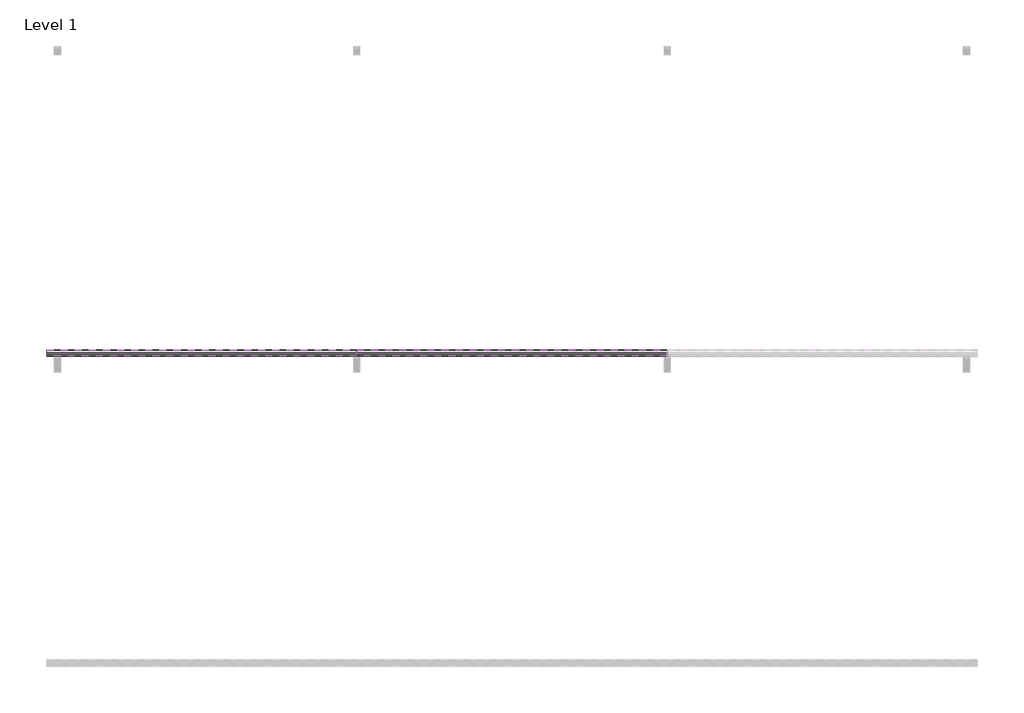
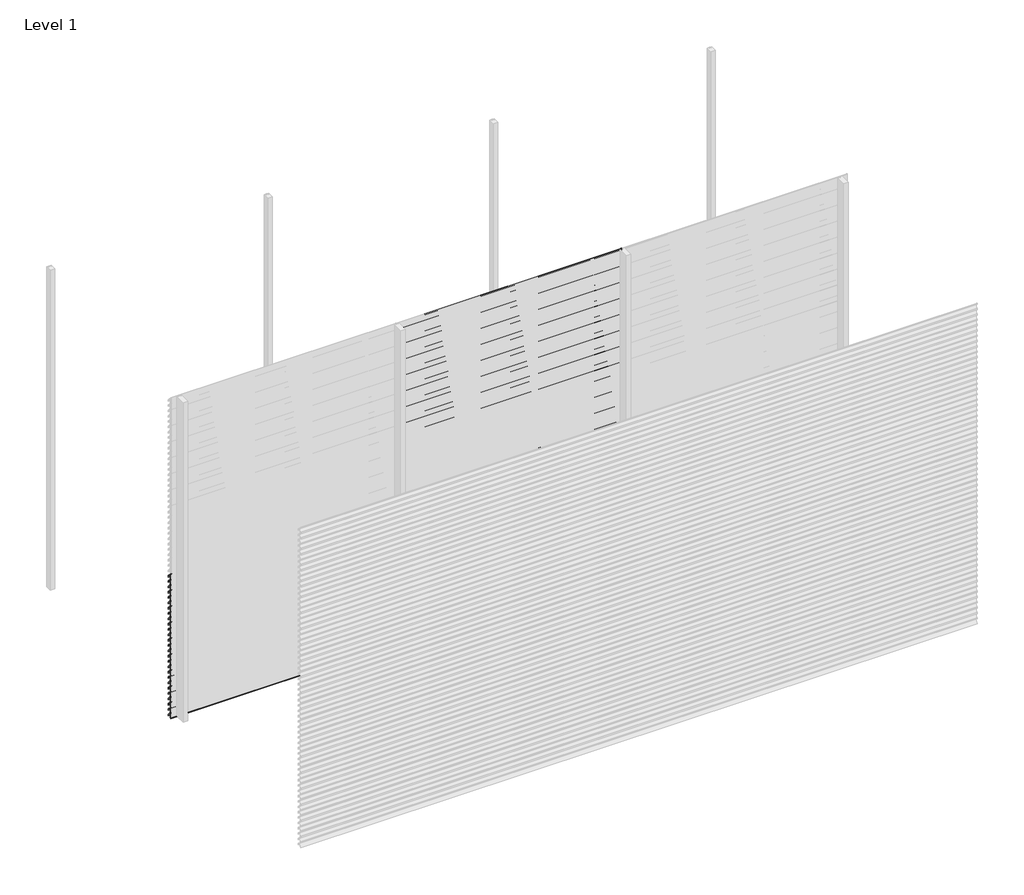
# One storey, part 15 of 38: 66 proxies.
"""IFC4 building model written with IfcOpenShell, lengths in millimetres."""

from ifc_helpers import new_model, si_unit, frame, origin, place, context, project, spatial, polyline, outline, extrude, element, save

model = new_model("IFC4")

# Units and contexts
model_context = context("Model", 3, world=origin())
ifc_project = project(units=[si_unit("LENGTHUNIT", "METRE", prefix="MILLI")], contexts=[model_context])

# Site, building, storey
site = spatial("IfcSite", under=ifc_project)
building = spatial("IfcBuilding", under=site)
storey = spatial("IfcBuildingStorey", under=building, Name="Level 1", Elevation=0.0)

# Proxies
placement = place(None, origin())
element("IfcBuildingElementProxy", 1, Name="Wall Sweeps", at=placement, inside=storey, context=model_context, shape_type="SweptSolid", body=[
    extrude(outline(polyline([(-35996.75, 1350.0), (-35996.75, 1339.19656), (-35974.6057113, 1326.4115489), (-35957.0, 1309.0472005), (-35957.0, 1294.0472005), (-35958.3, 1295.0268207), (-35958.3, 1308.5034593), (-35969.4914725, 1319.541504), (-35994.2797376, 1290.0), (-35995.9767671, 1290.0), (-35970.4200307, 1320.4573323), (-35975.3999793, 1325.3690091), (-35998.0, 1338.4171371), (-35998.0, 1350.0), (-35996.75, 1350.0)])), frame((0.0, 0.0, 0.0), z_axis=(1.0, 0.0, 0.0), x_axis=(0.0, 1.0, 0.0)), (0.0, 0.0, 1.0), 2000.0),
])
element("IfcBuildingElementProxy", 2, Name="Wall Sweeps", at=placement, inside=storey, context=model_context, shape_type="SweptSolid", body=[
    extrude(outline(polyline([(-35996.75, 1300.0), (-35996.75, 1289.19656), (-35974.6057113, 1276.4115489), (-35957.0, 1259.0472005), (-35957.0, 1244.0472005), (-35958.3, 1245.0268207), (-35958.3, 1258.5034593), (-35969.4914725, 1269.541504), (-35994.2797376, 1240.0), (-35995.9767671, 1240.0), (-35970.4200307, 1270.4573323), (-35975.3999793, 1275.3690091), (-35998.0, 1288.4171371), (-35998.0, 1300.0), (-35996.75, 1300.0)])), frame((0.0, 0.0, 0.0), z_axis=(1.0, 0.0, 0.0), x_axis=(0.0, 1.0, 0.0)), (0.0, 0.0, 1.0), 2000.0),
])
element("IfcBuildingElementProxy", 3, Name="Wall Sweeps", at=placement, inside=storey, context=model_context, shape_type="SweptSolid", body=[
    extrude(outline(polyline([(-35996.75, 1250.0), (-35996.75, 1239.19656), (-35974.6057113, 1226.4115489), (-35957.0, 1209.0472005), (-35957.0, 1194.0472005), (-35958.3, 1195.0268207), (-35958.3, 1208.5034593), (-35969.4914725, 1219.541504), (-35994.2797376, 1190.0), (-35995.9767671, 1190.0), (-35970.4200307, 1220.4573323), (-35975.3999793, 1225.3690091), (-35998.0, 1238.4171371), (-35998.0, 1250.0), (-35996.75, 1250.0)])), frame((0.0, 0.0, 0.0), z_axis=(1.0, 0.0, 0.0), x_axis=(0.0, 1.0, 0.0)), (0.0, 0.0, 1.0), 2000.0),
])
element("IfcBuildingElementProxy", 4, Name="Wall Sweeps", at=placement, inside=storey, context=model_context, shape_type="SweptSolid", body=[
    extrude(outline(polyline([(-35996.75, 1200.0), (-35996.75, 1189.19656), (-35974.6057113, 1176.4115489), (-35957.0, 1159.0472005), (-35957.0, 1144.0472005), (-35958.3, 1145.0268207), (-35958.3, 1158.5034593), (-35969.4914725, 1169.541504), (-35994.2797376, 1140.0), (-35995.9767671, 1140.0), (-35970.4200307, 1170.4573323), (-35975.3999793, 1175.3690091), (-35998.0, 1188.4171371), (-35998.0, 1200.0), (-35996.75, 1200.0)])), frame((0.0, 0.0, 0.0), z_axis=(1.0, 0.0, 0.0), x_axis=(0.0, 1.0, 0.0)), (0.0, 0.0, 1.0), 2000.0),
])
element("IfcBuildingElementProxy", 5, Name="Wall Sweeps", at=placement, inside=storey, context=model_context, shape_type="SweptSolid", body=[
    extrude(outline(polyline([(-35996.75, 1150.0), (-35996.75, 1139.19656), (-35974.6057113, 1126.4115489), (-35957.0, 1109.0472005), (-35957.0, 1094.0472005), (-35958.3, 1095.0268207), (-35958.3, 1108.5034593), (-35969.4914725, 1119.541504), (-35994.2797376, 1090.0), (-35995.9767671, 1090.0), (-35970.4200307, 1120.4573323), (-35975.3999793, 1125.3690091), (-35998.0, 1138.4171371), (-35998.0, 1150.0), (-35996.75, 1150.0)])), frame((0.0, 0.0, 0.0), z_axis=(1.0, 0.0, 0.0), x_axis=(0.0, 1.0, 0.0)), (0.0, 0.0, 1.0), 2000.0),
])
element("IfcBuildingElementProxy", 6, Name="Wall Sweeps", at=placement, inside=storey, context=model_context, shape_type="SweptSolid", body=[
    extrude(outline(polyline([(-35996.75, 1100.0), (-35996.75, 1089.19656), (-35974.6057113, 1076.4115489), (-35957.0, 1059.0472005), (-35957.0, 1044.0472005), (-35958.3, 1045.0268207), (-35958.3, 1058.5034593), (-35969.4914725, 1069.541504), (-35994.2797376, 1040.0), (-35995.9767671, 1040.0), (-35970.4200307, 1070.4573323), (-35975.3999793, 1075.3690091), (-35998.0, 1088.4171371), (-35998.0, 1100.0), (-35996.75, 1100.0)])), frame((0.0, 0.0, 0.0), z_axis=(1.0, 0.0, 0.0), x_axis=(0.0, 1.0, 0.0)), (0.0, 0.0, 1.0), 2000.0),
])
element("IfcBuildingElementProxy", 7, Name="Wall Sweeps", at=placement, inside=storey, context=model_context, shape_type="SweptSolid", body=[
    extrude(outline(polyline([(-35996.75, 1050.0), (-35996.75, 1039.19656), (-35974.6057113, 1026.4115489), (-35957.0, 1009.0472005), (-35957.0, 994.0472005), (-35958.3, 995.0268207), (-35958.3, 1008.5034593), (-35969.4914725, 1019.541504), (-35994.2797376, 990.0), (-35995.9767671, 990.0), (-35970.4200307, 1020.4573323), (-35975.3999793, 1025.3690091), (-35998.0, 1038.4171371), (-35998.0, 1050.0), (-35996.75, 1050.0)])), frame((0.0, 0.0, 0.0), z_axis=(1.0, 0.0, 0.0), x_axis=(0.0, 1.0, 0.0)), (0.0, 0.0, 1.0), 2000.0),
])
element("IfcBuildingElementProxy", 8, Name="Wall Sweeps", at=placement, inside=storey, context=model_context, shape_type="SweptSolid", body=[
    extrude(outline(polyline([(-35996.75, 1000.0), (-35996.75, 989.19656), (-35974.6057113, 976.4115489), (-35957.0, 959.0472005), (-35957.0, 944.0472005), (-35958.3, 945.0268207), (-35958.3, 958.5034593), (-35969.4914725, 969.541504), (-35994.2797376, 940.0), (-35995.9767671, 940.0), (-35970.4200307, 970.4573323), (-35975.3999793, 975.3690091), (-35998.0, 988.4171371), (-35998.0, 1000.0), (-35996.75, 1000.0)])), frame((0.0, 0.0, 0.0), z_axis=(1.0, 0.0, 0.0), x_axis=(0.0, 1.0, 0.0)), (0.0, 0.0, 1.0), 2000.0),
])
element("IfcBuildingElementProxy", 9, Name="Wall Sweeps", at=placement, inside=storey, context=model_context, shape_type="SweptSolid", body=[
    extrude(outline(polyline([(-35996.75, 950.0), (-35996.75, 939.19656), (-35974.6057113, 926.4115489), (-35957.0, 909.0472005), (-35957.0, 894.0472005), (-35958.3, 895.0268207), (-35958.3, 908.5034593), (-35969.4914725, 919.541504), (-35994.2797376, 890.0), (-35995.9767671, 890.0), (-35970.4200307, 920.4573323), (-35975.3999793, 925.3690091), (-35998.0, 938.4171371), (-35998.0, 950.0), (-35996.75, 950.0)])), frame((0.0, 0.0, 0.0), z_axis=(1.0, 0.0, 0.0), x_axis=(0.0, 1.0, 0.0)), (0.0, 0.0, 1.0), 2000.0),
])
element("IfcBuildingElementProxy", 10, Name="Wall Sweeps", at=placement, inside=storey, context=model_context, shape_type="SweptSolid", body=[
    extrude(outline(polyline([(-35996.75, 900.0), (-35996.75, 889.19656), (-35974.6057113, 876.4115489), (-35957.0, 859.0472005), (-35957.0, 844.0472005), (-35958.3, 845.0268207), (-35958.3, 858.5034593), (-35969.4914725, 869.541504), (-35994.2797376, 840.0), (-35995.9767671, 840.0), (-35970.4200307, 870.4573323), (-35975.3999793, 875.3690091), (-35998.0, 888.4171371), (-35998.0, 900.0), (-35996.75, 900.0)])), frame((0.0, 0.0, 0.0), z_axis=(1.0, 0.0, 0.0), x_axis=(0.0, 1.0, 0.0)), (0.0, 0.0, 1.0), 2000.0),
])
element("IfcBuildingElementProxy", 11, Name="Wall Sweeps", at=placement, inside=storey, context=model_context, shape_type="SweptSolid", body=[
    extrude(outline(polyline([(-35996.75, 850.0), (-35996.75, 839.19656), (-35974.6057113, 826.4115489), (-35957.0, 809.0472005), (-35957.0, 794.0472005), (-35958.3, 795.0268207), (-35958.3, 808.5034593), (-35969.4914725, 819.541504), (-35994.2797376, 790.0), (-35995.9767671, 790.0), (-35970.4200307, 820.4573323), (-35975.3999793, 825.3690091), (-35998.0, 838.4171371), (-35998.0, 850.0), (-35996.75, 850.0)])), frame((0.0, 0.0, 0.0), z_axis=(1.0, 0.0, 0.0), x_axis=(0.0, 1.0, 0.0)), (0.0, 0.0, 1.0), 2000.0),
])
element("IfcBuildingElementProxy", 12, Name="Wall Sweeps", at=placement, inside=storey, context=model_context, shape_type="SweptSolid", body=[
    extrude(outline(polyline([(-35996.75, 800.0), (-35996.75, 789.19656), (-35974.6057113, 776.4115489), (-35957.0, 759.0472005), (-35957.0, 744.0472005), (-35958.3, 745.0268207), (-35958.3, 758.5034593), (-35969.4914725, 769.541504), (-35994.2797376, 740.0), (-35995.9767671, 740.0), (-35970.4200307, 770.4573323), (-35975.3999793, 775.3690091), (-35998.0, 788.4171371), (-35998.0, 800.0), (-35996.75, 800.0)])), frame((0.0, 0.0, 0.0), z_axis=(1.0, 0.0, 0.0), x_axis=(0.0, 1.0, 0.0)), (0.0, 0.0, 1.0), 2000.0),
])
element("IfcBuildingElementProxy", 13, Name="Wall Sweeps", at=placement, inside=storey, context=model_context, shape_type="SweptSolid", body=[
    extrude(outline(polyline([(-35996.75, 750.0), (-35996.75, 739.19656), (-35974.6057113, 726.4115489), (-35957.0, 709.0472005), (-35957.0, 694.0472005), (-35958.3, 695.0268207), (-35958.3, 708.5034593), (-35969.4914725, 719.541504), (-35994.2797376, 690.0), (-35995.9767671, 690.0), (-35970.4200307, 720.4573323), (-35975.3999793, 725.3690091), (-35998.0, 738.4171371), (-35998.0, 750.0), (-35996.75, 750.0)])), frame((0.0, 0.0, 0.0), z_axis=(1.0, 0.0, 0.0), x_axis=(0.0, 1.0, 0.0)), (0.0, 0.0, 1.0), 2000.0),
])
element("IfcBuildingElementProxy", 14, Name="Wall Sweeps", at=placement, inside=storey, context=model_context, shape_type="SweptSolid", body=[
    extrude(outline(polyline([(-35996.75, 700.0), (-35996.75, 689.19656), (-35974.6057113, 676.4115489), (-35957.0, 659.0472005), (-35957.0, 644.0472005), (-35958.3, 645.0268207), (-35958.3, 658.5034593), (-35969.4914725, 669.541504), (-35994.2797376, 640.0), (-35995.9767671, 640.0), (-35970.4200307, 670.4573323), (-35975.3999793, 675.3690091), (-35998.0, 688.4171371), (-35998.0, 700.0), (-35996.75, 700.0)])), frame((0.0, 0.0, 0.0), z_axis=(1.0, 0.0, 0.0), x_axis=(0.0, 1.0, 0.0)), (0.0, 0.0, 1.0), 2000.0),
])
element("IfcBuildingElementProxy", 15, Name="Wall Sweeps", at=placement, inside=storey, context=model_context, shape_type="SweptSolid", body=[
    extrude(outline(polyline([(-35996.75, 650.0), (-35996.75, 639.19656), (-35974.6057113, 626.4115489), (-35957.0, 609.0472005), (-35957.0, 594.0472005), (-35958.3, 595.0268207), (-35958.3, 608.5034593), (-35969.4914725, 619.541504), (-35994.2797376, 590.0), (-35995.9767671, 590.0), (-35970.4200307, 620.4573323), (-35975.3999793, 625.3690091), (-35998.0, 638.4171371), (-35998.0, 650.0), (-35996.75, 650.0)])), frame((0.0, 0.0, 0.0), z_axis=(1.0, 0.0, 0.0), x_axis=(0.0, 1.0, 0.0)), (0.0, 0.0, 1.0), 2000.0),
])
element("IfcBuildingElementProxy", 16, Name="Wall Sweeps", at=placement, inside=storey, context=model_context, shape_type="SweptSolid", body=[
    extrude(outline(polyline([(-35996.75, 600.0), (-35996.75, 589.19656), (-35974.6057113, 576.4115489), (-35957.0, 559.0472005), (-35957.0, 544.0472005), (-35958.3, 545.0268207), (-35958.3, 558.5034593), (-35969.4914725, 569.541504), (-35994.2797376, 540.0), (-35995.9767671, 540.0), (-35970.4200307, 570.4573323), (-35975.3999793, 575.3690091), (-35998.0, 588.4171371), (-35998.0, 600.0), (-35996.75, 600.0)])), frame((0.0, 0.0, 0.0), z_axis=(1.0, 0.0, 0.0), x_axis=(0.0, 1.0, 0.0)), (0.0, 0.0, 1.0), 2000.0),
])
element("IfcBuildingElementProxy", 17, Name="Wall Sweeps", at=placement, inside=storey, context=model_context, shape_type="SweptSolid", body=[
    extrude(outline(polyline([(-35996.75, 550.0), (-35996.75, 539.19656), (-35974.6057113, 526.4115489), (-35957.0, 509.0472005), (-35957.0, 494.0472005), (-35958.3, 495.0268207), (-35958.3, 508.5034593), (-35969.4914725, 519.541504), (-35994.2797376, 490.0), (-35995.9767671, 490.0), (-35970.4200307, 520.4573323), (-35975.3999793, 525.3690091), (-35998.0, 538.4171371), (-35998.0, 550.0), (-35996.75, 550.0)])), frame((0.0, 0.0, 0.0), z_axis=(1.0, 0.0, 0.0), x_axis=(0.0, 1.0, 0.0)), (0.0, 0.0, 1.0), 2000.0),
])
element("IfcBuildingElementProxy", 18, Name="Wall Sweeps", at=placement, inside=storey, context=model_context, shape_type="SweptSolid", body=[
    extrude(outline(polyline([(-35996.75, 500.0), (-35996.75, 489.19656), (-35974.6057113, 476.4115489), (-35957.0, 459.0472005), (-35957.0, 444.0472005), (-35958.3, 445.0268207), (-35958.3, 458.5034593), (-35969.4914725, 469.541504), (-35994.2797376, 440.0), (-35995.9767671, 440.0), (-35970.4200307, 470.4573323), (-35975.3999793, 475.3690091), (-35998.0, 488.4171371), (-35998.0, 500.0), (-35996.75, 500.0)])), frame((0.0, 0.0, 0.0), z_axis=(1.0, 0.0, 0.0), x_axis=(0.0, 1.0, 0.0)), (0.0, 0.0, 1.0), 2000.0),
])
element("IfcBuildingElementProxy", 19, Name="Wall Sweeps", at=placement, inside=storey, context=model_context, shape_type="SweptSolid", body=[
    extrude(outline(polyline([(-35996.75, 450.0), (-35996.75, 439.19656), (-35974.6057113, 426.4115489), (-35957.0, 409.0472005), (-35957.0, 394.0472005), (-35958.3, 395.0268207), (-35958.3, 408.5034593), (-35969.4914725, 419.541504), (-35994.2797376, 390.0), (-35995.9767671, 390.0), (-35970.4200307, 420.4573323), (-35975.3999793, 425.3690091), (-35998.0, 438.4171371), (-35998.0, 450.0), (-35996.75, 450.0)])), frame((0.0, 0.0, 0.0), z_axis=(1.0, 0.0, 0.0), x_axis=(0.0, 1.0, 0.0)), (0.0, 0.0, 1.0), 2000.0),
])
element("IfcBuildingElementProxy", 20, Name="Wall Sweeps", at=placement, inside=storey, context=model_context, shape_type="SweptSolid", body=[
    extrude(outline(polyline([(-35996.75, 400.0), (-35996.75, 389.19656), (-35974.6057113, 376.4115489), (-35957.0, 359.0472005), (-35957.0, 344.0472005), (-35958.3, 345.0268207), (-35958.3, 358.5034593), (-35969.4914725, 369.541504), (-35994.2797376, 340.0), (-35995.9767671, 340.0), (-35970.4200307, 370.4573323), (-35975.3999793, 375.3690091), (-35998.0, 388.4171371), (-35998.0, 400.0), (-35996.75, 400.0)])), frame((0.0, 0.0, 0.0), z_axis=(1.0, 0.0, 0.0), x_axis=(0.0, 1.0, 0.0)), (0.0, 0.0, 1.0), 2000.0),
])
element("IfcBuildingElementProxy", 21, Name="Wall Sweeps", at=placement, inside=storey, context=model_context, shape_type="SweptSolid", body=[
    extrude(outline(polyline([(-35996.75, 350.0), (-35996.75, 339.19656), (-35974.6057113, 326.4115489), (-35957.0, 309.0472005), (-35957.0, 294.0472005), (-35958.3, 295.0268207), (-35958.3, 308.5034593), (-35969.4914725, 319.541504), (-35994.2797376, 290.0), (-35995.9767671, 290.0), (-35970.4200307, 320.4573323), (-35975.3999793, 325.3690091), (-35998.0, 338.4171371), (-35998.0, 350.0), (-35996.75, 350.0)])), frame((0.0, 0.0, 0.0), z_axis=(1.0, 0.0, 0.0), x_axis=(0.0, 1.0, 0.0)), (0.0, 0.0, 1.0), 2000.0),
])
element("IfcBuildingElementProxy", 22, Name="Wall Sweeps", at=placement, inside=storey, context=model_context, shape_type="SweptSolid", body=[
    extrude(outline(polyline([(-35996.75, 300.0), (-35996.75, 289.19656), (-35974.6057113, 276.4115489), (-35957.0, 259.0472005), (-35957.0, 244.0472005), (-35958.3, 245.0268207), (-35958.3, 258.5034593), (-35969.4914725, 269.541504), (-35994.2797376, 240.0), (-35995.9767671, 240.0), (-35970.4200307, 270.4573323), (-35975.3999793, 275.3690091), (-35998.0, 288.4171371), (-35998.0, 300.0), (-35996.75, 300.0)])), frame((0.0, 0.0, 0.0), z_axis=(1.0, 0.0, 0.0), x_axis=(0.0, 1.0, 0.0)), (0.0, 0.0, 1.0), 2000.0),
])
element("IfcBuildingElementProxy", 23, Name="Wall Sweeps", at=placement, inside=storey, context=model_context, shape_type="SweptSolid", body=[
    extrude(outline(polyline([(-35996.75, 250.0), (-35996.75, 239.19656), (-35974.6057113, 226.4115489), (-35957.0, 209.0472005), (-35957.0, 194.0472005), (-35958.3, 195.0268207), (-35958.3, 208.5034593), (-35969.4914725, 219.541504), (-35994.2797376, 190.0), (-35995.9767671, 190.0), (-35970.4200307, 220.4573323), (-35975.3999793, 225.3690091), (-35998.0, 238.4171371), (-35998.0, 250.0), (-35996.75, 250.0)])), frame((0.0, 0.0, 0.0), z_axis=(1.0, 0.0, 0.0), x_axis=(0.0, 1.0, 0.0)), (0.0, 0.0, 1.0), 2000.0),
])
element("IfcBuildingElementProxy", 24, Name="Wall Sweeps", at=placement, inside=storey, context=model_context, shape_type="SweptSolid", body=[
    extrude(outline(polyline([(-35996.75, 200.0), (-35996.75, 189.19656), (-35974.6057113, 176.4115489), (-35957.0, 159.0472005), (-35957.0, 144.0472005), (-35958.3, 145.0268207), (-35958.3, 158.5034593), (-35969.4914725, 169.541504), (-35994.2797376, 140.0), (-35995.9767671, 140.0), (-35970.4200307, 170.4573323), (-35975.3999793, 175.3690091), (-35998.0, 188.4171371), (-35998.0, 200.0), (-35996.75, 200.0)])), frame((0.0, 0.0, 0.0), z_axis=(1.0, 0.0, 0.0), x_axis=(0.0, 1.0, 0.0)), (0.0, 0.0, 1.0), 2000.0),
])
element("IfcBuildingElementProxy", 25, Name="Wall Sweeps", at=placement, inside=storey, context=model_context, shape_type="SweptSolid", body=[
    extrude(outline(polyline([(-35996.75, 150.0), (-35996.75, 139.19656), (-35974.6057113, 126.4115489), (-35957.0, 109.0472005), (-35957.0, 94.0472005), (-35958.3, 95.0268207), (-35958.3, 108.5034593), (-35969.4914725, 119.541504), (-35994.2797376, 90.0), (-35995.9767671, 90.0), (-35970.4200307, 120.4573323), (-35975.3999793, 125.3690091), (-35998.0, 138.4171371), (-35998.0, 150.0), (-35996.75, 150.0)])), frame((0.0, 0.0, 0.0), z_axis=(1.0, 0.0, 0.0), x_axis=(0.0, 1.0, 0.0)), (0.0, 0.0, 1.0), 2000.0),
])
element("IfcBuildingElementProxy", 26, Name="Wall Sweeps", at=placement, inside=storey, context=model_context, shape_type="SweptSolid", body=[
    extrude(outline(polyline([(-35996.75, 100.0), (-35996.75, 89.19656), (-35974.6057113, 76.4115489), (-35957.0, 59.0472005), (-35957.0, 44.0472005), (-35958.3, 45.0268207), (-35958.3, 58.5034593), (-35969.4914725, 69.541504), (-35994.2797376, 40.0), (-35995.9767671, 40.0), (-35970.4200307, 70.4573323), (-35975.3999793, 75.3690091), (-35998.0, 88.4171371), (-35998.0, 100.0), (-35996.75, 100.0)])), frame((0.0, 0.0, 0.0), z_axis=(1.0, 0.0, 0.0), x_axis=(0.0, 1.0, 0.0)), (0.0, 0.0, 1.0), 2000.0),
])
element("IfcBuildingElementProxy", 27, Name="Wall Sweeps", at=placement, inside=storey, context=model_context, shape_type="SweptSolid", body=[
    extrude(outline(polyline([(-35996.75, 50.0), (-35996.75, 39.19656), (-35974.6057113, 26.4115489), (-35957.0, 9.0472005), (-35957.0, -5.9527995), (-35958.3, -4.9731793), (-35958.3, 8.5034593), (-35969.4914725, 19.541504), (-35994.2797376, -10.0), (-35995.9767671, -10.0), (-35970.4200307, 20.4573323), (-35975.3999793, 25.3690091), (-35998.0, 38.4171371), (-35998.0, 50.0), (-35996.75, 50.0)])), frame((0.0, 0.0, 0.0), z_axis=(1.0, 0.0, 0.0), x_axis=(0.0, 1.0, 0.0)), (0.0, 0.0, 1.0), 2000.0),
])
element("IfcBuildingElementProxy", 28, Name="Wall Sweeps", at=placement, inside=storey, context=model_context, shape_type="SweptSolid", body=[
    extrude(outline(polyline([(-35996.75, 3000.0), (-35996.75, 2989.19656), (-35974.6057113, 2976.4115489), (-35957.0, 2959.0472005), (-35957.0, 2944.0472005), (-35958.3, 2945.0268207), (-35958.3, 2958.5034593), (-35969.4914725, 2969.541504), (-35994.2797376, 2940.0), (-35995.9767671, 2940.0), (-35970.4200307, 2970.4573323), (-35975.3999793, 2975.3690091), (-35998.0, 2988.4171371), (-35998.0, 3000.0), (-35996.75, 3000.0)])), frame((2000.0, 0.0, 0.0), z_axis=(1.0, 0.0, 0.0), x_axis=(0.0, 1.0, 0.0)), (0.0, 0.0, 1.0), 2000.0),
])
element("IfcBuildingElementProxy", 29, Name="Wall Sweeps", at=placement, inside=storey, context=model_context, shape_type="SweptSolid", body=[
    extrude(outline(polyline([(-35996.75, 2950.0), (-35996.75, 2939.19656), (-35974.6057113, 2926.4115489), (-35957.0, 2909.0472005), (-35957.0, 2894.0472005), (-35958.3, 2895.0268207), (-35958.3, 2908.5034593), (-35969.4914725, 2919.541504), (-35994.2797376, 2890.0), (-35995.9767671, 2890.0), (-35970.4200307, 2920.4573323), (-35975.3999793, 2925.3690091), (-35998.0, 2938.4171371), (-35998.0, 2950.0), (-35996.75, 2950.0)])), frame((2000.0, 0.0, 0.0), z_axis=(1.0, 0.0, 0.0), x_axis=(0.0, 1.0, 0.0)), (0.0, 0.0, 1.0), 2000.0),
])
element("IfcBuildingElementProxy", 30, Name="Wall Sweeps", at=placement, inside=storey, context=model_context, shape_type="SweptSolid", body=[
    extrude(outline(polyline([(-35996.75, 2900.0), (-35996.75, 2889.19656), (-35974.6057113, 2876.4115489), (-35957.0, 2859.0472005), (-35957.0, 2844.0472005), (-35958.3, 2845.0268207), (-35958.3, 2858.5034593), (-35969.4914725, 2869.541504), (-35994.2797376, 2840.0), (-35995.9767671, 2840.0), (-35970.4200307, 2870.4573323), (-35975.3999793, 2875.3690091), (-35998.0, 2888.4171371), (-35998.0, 2900.0), (-35996.75, 2900.0)])), frame((2000.0, 0.0, 0.0), z_axis=(1.0, 0.0, 0.0), x_axis=(0.0, 1.0, 0.0)), (0.0, 0.0, 1.0), 2000.0),
])
element("IfcBuildingElementProxy", 31, Name="Wall Sweeps", at=placement, inside=storey, context=model_context, shape_type="SweptSolid", body=[
    extrude(outline(polyline([(-35996.75, 2850.0), (-35996.75, 2839.19656), (-35974.6057113, 2826.4115489), (-35957.0, 2809.0472005), (-35957.0, 2794.0472005), (-35958.3, 2795.0268207), (-35958.3, 2808.5034593), (-35969.4914725, 2819.541504), (-35994.2797376, 2790.0), (-35995.9767671, 2790.0), (-35970.4200307, 2820.4573323), (-35975.3999793, 2825.3690091), (-35998.0, 2838.4171371), (-35998.0, 2850.0), (-35996.75, 2850.0)])), frame((2000.0, 0.0, 0.0), z_axis=(1.0, 0.0, 0.0), x_axis=(0.0, 1.0, 0.0)), (0.0, 0.0, 1.0), 2000.0),
])
element("IfcBuildingElementProxy", 32, Name="Wall Sweeps", at=placement, inside=storey, context=model_context, shape_type="SweptSolid", body=[
    extrude(outline(polyline([(-35996.75, 2800.0), (-35996.75, 2789.19656), (-35974.6057113, 2776.4115489), (-35957.0, 2759.0472005), (-35957.0, 2744.0472005), (-35958.3, 2745.0268207), (-35958.3, 2758.5034593), (-35969.4914725, 2769.541504), (-35994.2797376, 2740.0), (-35995.9767671, 2740.0), (-35970.4200307, 2770.4573323), (-35975.3999793, 2775.3690091), (-35998.0, 2788.4171371), (-35998.0, 2800.0), (-35996.75, 2800.0)])), frame((2000.0, 0.0, 0.0), z_axis=(1.0, 0.0, 0.0), x_axis=(0.0, 1.0, 0.0)), (0.0, 0.0, 1.0), 2000.0),
])
element("IfcBuildingElementProxy", 33, Name="Wall Sweeps", at=placement, inside=storey, context=model_context, shape_type="SweptSolid", body=[
    extrude(outline(polyline([(-35996.75, 2750.0), (-35996.75, 2739.19656), (-35974.6057113, 2726.4115489), (-35957.0, 2709.0472005), (-35957.0, 2694.0472005), (-35958.3, 2695.0268207), (-35958.3, 2708.5034593), (-35969.4914725, 2719.541504), (-35994.2797376, 2690.0), (-35995.9767671, 2690.0), (-35970.4200307, 2720.4573323), (-35975.3999793, 2725.3690091), (-35998.0, 2738.4171371), (-35998.0, 2750.0), (-35996.75, 2750.0)])), frame((2000.0, 0.0, 0.0), z_axis=(1.0, 0.0, 0.0), x_axis=(0.0, 1.0, 0.0)), (0.0, 0.0, 1.0), 2000.0),
])
element("IfcBuildingElementProxy", 34, Name="Wall Sweeps", at=placement, inside=storey, context=model_context, shape_type="SweptSolid", body=[
    extrude(outline(polyline([(-35996.75, 2700.0), (-35996.75, 2689.19656), (-35974.6057113, 2676.4115489), (-35957.0, 2659.0472005), (-35957.0, 2644.0472005), (-35958.3, 2645.0268207), (-35958.3, 2658.5034593), (-35969.4914725, 2669.541504), (-35994.2797376, 2640.0), (-35995.9767671, 2640.0), (-35970.4200307, 2670.4573323), (-35975.3999793, 2675.3690091), (-35998.0, 2688.4171371), (-35998.0, 2700.0), (-35996.75, 2700.0)])), frame((2000.0, 0.0, 0.0), z_axis=(1.0, 0.0, 0.0), x_axis=(0.0, 1.0, 0.0)), (0.0, 0.0, 1.0), 2000.0),
])
element("IfcBuildingElementProxy", 35, Name="Wall Sweeps", at=placement, inside=storey, context=model_context, shape_type="SweptSolid", body=[
    extrude(outline(polyline([(-35996.75, 2650.0), (-35996.75, 2639.19656), (-35974.6057113, 2626.4115489), (-35957.0, 2609.0472005), (-35957.0, 2594.0472005), (-35958.3, 2595.0268207), (-35958.3, 2608.5034593), (-35969.4914725, 2619.541504), (-35994.2797376, 2590.0), (-35995.9767671, 2590.0), (-35970.4200307, 2620.4573323), (-35975.3999793, 2625.3690091), (-35998.0, 2638.4171371), (-35998.0, 2650.0), (-35996.75, 2650.0)])), frame((2000.0, 0.0, 0.0), z_axis=(1.0, 0.0, 0.0), x_axis=(0.0, 1.0, 0.0)), (0.0, 0.0, 1.0), 2000.0),
])
element("IfcBuildingElementProxy", 36, Name="Wall Sweeps", at=placement, inside=storey, context=model_context, shape_type="SweptSolid", body=[
    extrude(outline(polyline([(-35996.75, 2600.0), (-35996.75, 2589.19656), (-35974.6057113, 2576.4115489), (-35957.0, 2559.0472005), (-35957.0, 2544.0472005), (-35958.3, 2545.0268207), (-35958.3, 2558.5034593), (-35969.4914725, 2569.541504), (-35994.2797376, 2540.0), (-35995.9767671, 2540.0), (-35970.4200307, 2570.4573323), (-35975.3999793, 2575.3690091), (-35998.0, 2588.4171371), (-35998.0, 2600.0), (-35996.75, 2600.0)])), frame((2000.0, 0.0, 0.0), z_axis=(1.0, 0.0, 0.0), x_axis=(0.0, 1.0, 0.0)), (0.0, 0.0, 1.0), 2000.0),
])
element("IfcBuildingElementProxy", 37, Name="Wall Sweeps", at=placement, inside=storey, context=model_context, shape_type="SweptSolid", body=[
    extrude(outline(polyline([(-35996.75, 2550.0), (-35996.75, 2539.19656), (-35974.6057113, 2526.4115489), (-35957.0, 2509.0472005), (-35957.0, 2494.0472005), (-35958.3, 2495.0268207), (-35958.3, 2508.5034593), (-35969.4914725, 2519.541504), (-35994.2797376, 2490.0), (-35995.9767671, 2490.0), (-35970.4200307, 2520.4573323), (-35975.3999793, 2525.3690091), (-35998.0, 2538.4171371), (-35998.0, 2550.0), (-35996.75, 2550.0)])), frame((2000.0, 0.0, 0.0), z_axis=(1.0, 0.0, 0.0), x_axis=(0.0, 1.0, 0.0)), (0.0, 0.0, 1.0), 2000.0),
])
element("IfcBuildingElementProxy", 38, Name="Wall Sweeps", at=placement, inside=storey, context=model_context, shape_type="SweptSolid", body=[
    extrude(outline(polyline([(-35996.75, 2500.0), (-35996.75, 2489.19656), (-35974.6057113, 2476.4115489), (-35957.0, 2459.0472005), (-35957.0, 2444.0472005), (-35958.3, 2445.0268207), (-35958.3, 2458.5034593), (-35969.4914725, 2469.541504), (-35994.2797376, 2440.0), (-35995.9767671, 2440.0), (-35970.4200307, 2470.4573323), (-35975.3999793, 2475.3690091), (-35998.0, 2488.4171371), (-35998.0, 2500.0), (-35996.75, 2500.0)])), frame((2000.0, 0.0, 0.0), z_axis=(1.0, 0.0, 0.0), x_axis=(0.0, 1.0, 0.0)), (0.0, 0.0, 1.0), 2000.0),
])
element("IfcBuildingElementProxy", 39, Name="Wall Sweeps", at=placement, inside=storey, context=model_context, shape_type="SweptSolid", body=[
    extrude(outline(polyline([(-35996.75, 2450.0), (-35996.75, 2439.19656), (-35974.6057113, 2426.4115489), (-35957.0, 2409.0472005), (-35957.0, 2394.0472005), (-35958.3, 2395.0268207), (-35958.3, 2408.5034593), (-35969.4914725, 2419.541504), (-35994.2797376, 2390.0), (-35995.9767671, 2390.0), (-35970.4200307, 2420.4573323), (-35975.3999793, 2425.3690091), (-35998.0, 2438.4171371), (-35998.0, 2450.0), (-35996.75, 2450.0)])), frame((2000.0, 0.0, 0.0), z_axis=(1.0, 0.0, 0.0), x_axis=(0.0, 1.0, 0.0)), (0.0, 0.0, 1.0), 2000.0),
])
element("IfcBuildingElementProxy", 40, Name="Wall Sweeps", at=placement, inside=storey, context=model_context, shape_type="SweptSolid", body=[
    extrude(outline(polyline([(-35996.75, 2400.0), (-35996.75, 2389.19656), (-35974.6057113, 2376.4115489), (-35957.0, 2359.0472005), (-35957.0, 2344.0472005), (-35958.3, 2345.0268207), (-35958.3, 2358.5034593), (-35969.4914725, 2369.541504), (-35994.2797376, 2340.0), (-35995.9767671, 2340.0), (-35970.4200307, 2370.4573323), (-35975.3999793, 2375.3690091), (-35998.0, 2388.4171371), (-35998.0, 2400.0), (-35996.75, 2400.0)])), frame((2000.0, 0.0, 0.0), z_axis=(1.0, 0.0, 0.0), x_axis=(0.0, 1.0, 0.0)), (0.0, 0.0, 1.0), 2000.0),
])
element("IfcBuildingElementProxy", 41, Name="Wall Sweeps", at=placement, inside=storey, context=model_context, shape_type="SweptSolid", body=[
    extrude(outline(polyline([(-35996.75, 2350.0), (-35996.75, 2339.19656), (-35974.6057113, 2326.4115489), (-35957.0, 2309.0472005), (-35957.0, 2294.0472005), (-35958.3, 2295.0268207), (-35958.3, 2308.5034593), (-35969.4914725, 2319.541504), (-35994.2797376, 2290.0), (-35995.9767671, 2290.0), (-35970.4200307, 2320.4573323), (-35975.3999793, 2325.3690091), (-35998.0, 2338.4171371), (-35998.0, 2350.0), (-35996.75, 2350.0)])), frame((2000.0, 0.0, 0.0), z_axis=(1.0, 0.0, 0.0), x_axis=(0.0, 1.0, 0.0)), (0.0, 0.0, 1.0), 2000.0),
])
element("IfcBuildingElementProxy", 42, Name="Wall Sweeps", at=placement, inside=storey, context=model_context, shape_type="SweptSolid", body=[
    extrude(outline(polyline([(-35996.75, 2300.0), (-35996.75, 2289.19656), (-35974.6057113, 2276.4115489), (-35957.0, 2259.0472005), (-35957.0, 2244.0472005), (-35958.3, 2245.0268207), (-35958.3, 2258.5034593), (-35969.4914725, 2269.541504), (-35994.2797376, 2240.0), (-35995.9767671, 2240.0), (-35970.4200307, 2270.4573323), (-35975.3999793, 2275.3690091), (-35998.0, 2288.4171371), (-35998.0, 2300.0), (-35996.75, 2300.0)])), frame((2000.0, 0.0, 0.0), z_axis=(1.0, 0.0, 0.0), x_axis=(0.0, 1.0, 0.0)), (0.0, 0.0, 1.0), 2000.0),
])
element("IfcBuildingElementProxy", 43, Name="Wall Sweeps", at=placement, inside=storey, context=model_context, shape_type="SweptSolid", body=[
    extrude(outline(polyline([(-35996.75, 2250.0), (-35996.75, 2239.19656), (-35974.6057113, 2226.4115489), (-35957.0, 2209.0472005), (-35957.0, 2194.0472005), (-35958.3, 2195.0268207), (-35958.3, 2208.5034593), (-35969.4914725, 2219.541504), (-35994.2797376, 2190.0), (-35995.9767671, 2190.0), (-35970.4200307, 2220.4573323), (-35975.3999793, 2225.3690091), (-35998.0, 2238.4171371), (-35998.0, 2250.0), (-35996.75, 2250.0)])), frame((2000.0, 0.0, 0.0), z_axis=(1.0, 0.0, 0.0), x_axis=(0.0, 1.0, 0.0)), (0.0, 0.0, 1.0), 2000.0),
])
element("IfcBuildingElementProxy", 44, Name="Wall Sweeps", at=placement, inside=storey, context=model_context, shape_type="SweptSolid", body=[
    extrude(outline(polyline([(-35996.75, 2200.0), (-35996.75, 2189.19656), (-35974.6057113, 2176.4115489), (-35957.0, 2159.0472005), (-35957.0, 2144.0472005), (-35958.3, 2145.0268207), (-35958.3, 2158.5034593), (-35969.4914725, 2169.541504), (-35994.2797376, 2140.0), (-35995.9767671, 2140.0), (-35970.4200307, 2170.4573323), (-35975.3999793, 2175.3690091), (-35998.0, 2188.4171371), (-35998.0, 2200.0), (-35996.75, 2200.0)])), frame((2000.0, 0.0, 0.0), z_axis=(1.0, 0.0, 0.0), x_axis=(0.0, 1.0, 0.0)), (0.0, 0.0, 1.0), 2000.0),
])
element("IfcBuildingElementProxy", 45, Name="Wall Sweeps", at=placement, inside=storey, context=model_context, shape_type="SweptSolid", body=[
    extrude(outline(polyline([(-35996.75, 2150.0), (-35996.75, 2139.19656), (-35974.6057113, 2126.4115489), (-35957.0, 2109.0472005), (-35957.0, 2094.0472005), (-35958.3, 2095.0268207), (-35958.3, 2108.5034593), (-35969.4914725, 2119.541504), (-35994.2797376, 2090.0), (-35995.9767671, 2090.0), (-35970.4200307, 2120.4573323), (-35975.3999793, 2125.3690091), (-35998.0, 2138.4171371), (-35998.0, 2150.0), (-35996.75, 2150.0)])), frame((2000.0, 0.0, 0.0), z_axis=(1.0, 0.0, 0.0), x_axis=(0.0, 1.0, 0.0)), (0.0, 0.0, 1.0), 2000.0),
])
element("IfcBuildingElementProxy", 46, Name="Wall Sweeps", at=placement, inside=storey, context=model_context, shape_type="SweptSolid", body=[
    extrude(outline(polyline([(-35996.75, 2100.0), (-35996.75, 2089.19656), (-35974.6057113, 2076.4115489), (-35957.0, 2059.0472005), (-35957.0, 2044.0472005), (-35958.3, 2045.0268207), (-35958.3, 2058.5034593), (-35969.4914725, 2069.541504), (-35994.2797376, 2040.0), (-35995.9767671, 2040.0), (-35970.4200307, 2070.4573323), (-35975.3999793, 2075.3690091), (-35998.0, 2088.4171371), (-35998.0, 2100.0), (-35996.75, 2100.0)])), frame((2000.0, 0.0, 0.0), z_axis=(1.0, 0.0, 0.0), x_axis=(0.0, 1.0, 0.0)), (0.0, 0.0, 1.0), 2000.0),
])
element("IfcBuildingElementProxy", 47, Name="Wall Sweeps", at=placement, inside=storey, context=model_context, shape_type="SweptSolid", body=[
    extrude(outline(polyline([(-35996.75, 2050.0), (-35996.75, 2039.19656), (-35974.6057113, 2026.4115489), (-35957.0, 2009.0472005), (-35957.0, 1994.0472005), (-35958.3, 1995.0268207), (-35958.3, 2008.5034593), (-35969.4914725, 2019.541504), (-35994.2797376, 1990.0), (-35995.9767671, 1990.0), (-35970.4200307, 2020.4573323), (-35975.3999793, 2025.3690091), (-35998.0, 2038.4171371), (-35998.0, 2050.0), (-35996.75, 2050.0)])), frame((2000.0, 0.0, 0.0), z_axis=(1.0, 0.0, 0.0), x_axis=(0.0, 1.0, 0.0)), (0.0, 0.0, 1.0), 2000.0),
])
element("IfcBuildingElementProxy", 48, Name="Wall Sweeps", at=placement, inside=storey, context=model_context, shape_type="SweptSolid", body=[
    extrude(outline(polyline([(-35996.75, 2000.0), (-35996.75, 1989.19656), (-35974.6057113, 1976.4115489), (-35957.0, 1959.0472005), (-35957.0, 1944.0472005), (-35958.3, 1945.0268207), (-35958.3, 1958.5034593), (-35969.4914725, 1969.541504), (-35994.2797376, 1940.0), (-35995.9767671, 1940.0), (-35970.4200307, 1970.4573323), (-35975.3999793, 1975.3690091), (-35998.0, 1988.4171371), (-35998.0, 2000.0), (-35996.75, 2000.0)])), frame((2000.0, 0.0, 0.0), z_axis=(1.0, 0.0, 0.0), x_axis=(0.0, 1.0, 0.0)), (0.0, 0.0, 1.0), 2000.0),
])
element("IfcBuildingElementProxy", 49, Name="Wall Sweeps", at=placement, inside=storey, context=model_context, shape_type="SweptSolid", body=[
    extrude(outline(polyline([(-35996.75, 1950.0), (-35996.75, 1939.19656), (-35974.6057113, 1926.4115489), (-35957.0, 1909.0472005), (-35957.0, 1894.0472005), (-35958.3, 1895.0268207), (-35958.3, 1908.5034593), (-35969.4914725, 1919.541504), (-35994.2797376, 1890.0), (-35995.9767671, 1890.0), (-35970.4200307, 1920.4573323), (-35975.3999793, 1925.3690091), (-35998.0, 1938.4171371), (-35998.0, 1950.0), (-35996.75, 1950.0)])), frame((2000.0, 0.0, 0.0), z_axis=(1.0, 0.0, 0.0), x_axis=(0.0, 1.0, 0.0)), (0.0, 0.0, 1.0), 2000.0),
])
element("IfcBuildingElementProxy", 50, Name="Wall Sweeps", at=placement, inside=storey, context=model_context, shape_type="SweptSolid", body=[
    extrude(outline(polyline([(-35996.75, 1900.0), (-35996.75, 1889.19656), (-35974.6057113, 1876.4115489), (-35957.0, 1859.0472005), (-35957.0, 1844.0472005), (-35958.3, 1845.0268207), (-35958.3, 1858.5034593), (-35969.4914725, 1869.541504), (-35994.2797376, 1840.0), (-35995.9767671, 1840.0), (-35970.4200307, 1870.4573323), (-35975.3999793, 1875.3690091), (-35998.0, 1888.4171371), (-35998.0, 1900.0), (-35996.75, 1900.0)])), frame((2000.0, 0.0, 0.0), z_axis=(1.0, 0.0, 0.0), x_axis=(0.0, 1.0, 0.0)), (0.0, 0.0, 1.0), 2000.0),
])
element("IfcBuildingElementProxy", 51, Name="Wall Sweeps", at=placement, inside=storey, context=model_context, shape_type="SweptSolid", body=[
    extrude(outline(polyline([(-35996.75, 1850.0), (-35996.75, 1839.19656), (-35974.6057113, 1826.4115489), (-35957.0, 1809.0472005), (-35957.0, 1794.0472005), (-35958.3, 1795.0268207), (-35958.3, 1808.5034593), (-35969.4914725, 1819.541504), (-35994.2797376, 1790.0), (-35995.9767671, 1790.0), (-35970.4200307, 1820.4573323), (-35975.3999793, 1825.3690091), (-35998.0, 1838.4171371), (-35998.0, 1850.0), (-35996.75, 1850.0)])), frame((2000.0, 0.0, 0.0), z_axis=(1.0, 0.0, 0.0), x_axis=(0.0, 1.0, 0.0)), (0.0, 0.0, 1.0), 2000.0),
])
element("IfcBuildingElementProxy", 52, Name="Wall Sweeps", at=placement, inside=storey, context=model_context, shape_type="SweptSolid", body=[
    extrude(outline(polyline([(-35996.75, 1800.0), (-35996.75, 1789.19656), (-35974.6057113, 1776.4115489), (-35957.0, 1759.0472005), (-35957.0, 1744.0472005), (-35958.3, 1745.0268207), (-35958.3, 1758.5034593), (-35969.4914725, 1769.541504), (-35994.2797376, 1740.0), (-35995.9767671, 1740.0), (-35970.4200307, 1770.4573323), (-35975.3999793, 1775.3690091), (-35998.0, 1788.4171371), (-35998.0, 1800.0), (-35996.75, 1800.0)])), frame((2000.0, 0.0, 0.0), z_axis=(1.0, 0.0, 0.0), x_axis=(0.0, 1.0, 0.0)), (0.0, 0.0, 1.0), 2000.0),
])
element("IfcBuildingElementProxy", 53, Name="Wall Sweeps", at=placement, inside=storey, context=model_context, shape_type="SweptSolid", body=[
    extrude(outline(polyline([(-35996.75, 1750.0), (-35996.75, 1739.19656), (-35974.6057113, 1726.4115489), (-35957.0, 1709.0472005), (-35957.0, 1694.0472005), (-35958.3, 1695.0268207), (-35958.3, 1708.5034593), (-35969.4914725, 1719.541504), (-35994.2797376, 1690.0), (-35995.9767671, 1690.0), (-35970.4200307, 1720.4573323), (-35975.3999793, 1725.3690091), (-35998.0, 1738.4171371), (-35998.0, 1750.0), (-35996.75, 1750.0)])), frame((2000.0, 0.0, 0.0), z_axis=(1.0, 0.0, 0.0), x_axis=(0.0, 1.0, 0.0)), (0.0, 0.0, 1.0), 2000.0),
])
element("IfcBuildingElementProxy", 54, Name="Wall Sweeps", at=placement, inside=storey, context=model_context, shape_type="SweptSolid", body=[
    extrude(outline(polyline([(-35996.75, 1700.0), (-35996.75, 1689.19656), (-35974.6057113, 1676.4115489), (-35957.0, 1659.0472005), (-35957.0, 1644.0472005), (-35958.3, 1645.0268207), (-35958.3, 1658.5034593), (-35969.4914725, 1669.541504), (-35994.2797376, 1640.0), (-35995.9767671, 1640.0), (-35970.4200307, 1670.4573323), (-35975.3999793, 1675.3690091), (-35998.0, 1688.4171371), (-35998.0, 1700.0), (-35996.75, 1700.0)])), frame((2000.0, 0.0, 0.0), z_axis=(1.0, 0.0, 0.0), x_axis=(0.0, 1.0, 0.0)), (0.0, 0.0, 1.0), 2000.0),
])
element("IfcBuildingElementProxy", 55, Name="Wall Sweeps", at=placement, inside=storey, context=model_context, shape_type="SweptSolid", body=[
    extrude(outline(polyline([(-35996.75, 1650.0), (-35996.75, 1639.19656), (-35974.6057113, 1626.4115489), (-35957.0, 1609.0472005), (-35957.0, 1594.0472005), (-35958.3, 1595.0268207), (-35958.3, 1608.5034593), (-35969.4914725, 1619.541504), (-35994.2797376, 1590.0), (-35995.9767671, 1590.0), (-35970.4200307, 1620.4573323), (-35975.3999793, 1625.3690091), (-35998.0, 1638.4171371), (-35998.0, 1650.0), (-35996.75, 1650.0)])), frame((2000.0, 0.0, 0.0), z_axis=(1.0, 0.0, 0.0), x_axis=(0.0, 1.0, 0.0)), (0.0, 0.0, 1.0), 2000.0),
])
element("IfcBuildingElementProxy", 56, Name="Wall Sweeps", at=placement, inside=storey, context=model_context, shape_type="SweptSolid", body=[
    extrude(outline(polyline([(-35996.75, 1600.0), (-35996.75, 1589.19656), (-35974.6057113, 1576.4115489), (-35957.0, 1559.0472005), (-35957.0, 1544.0472005), (-35958.3, 1545.0268207), (-35958.3, 1558.5034593), (-35969.4914725, 1569.541504), (-35994.2797376, 1540.0), (-35995.9767671, 1540.0), (-35970.4200307, 1570.4573323), (-35975.3999793, 1575.3690091), (-35998.0, 1588.4171371), (-35998.0, 1600.0), (-35996.75, 1600.0)])), frame((2000.0, 0.0, 0.0), z_axis=(1.0, 0.0, 0.0), x_axis=(0.0, 1.0, 0.0)), (0.0, 0.0, 1.0), 2000.0),
])
element("IfcBuildingElementProxy", 57, Name="Wall Sweeps", at=placement, inside=storey, context=model_context, shape_type="SweptSolid", body=[
    extrude(outline(polyline([(-35996.75, 1550.0), (-35996.75, 1539.19656), (-35974.6057113, 1526.4115489), (-35957.0, 1509.0472005), (-35957.0, 1494.0472005), (-35958.3, 1495.0268207), (-35958.3, 1508.5034593), (-35969.4914725, 1519.541504), (-35994.2797376, 1490.0), (-35995.9767671, 1490.0), (-35970.4200307, 1520.4573323), (-35975.3999793, 1525.3690091), (-35998.0, 1538.4171371), (-35998.0, 1550.0), (-35996.75, 1550.0)])), frame((2000.0, 0.0, 0.0), z_axis=(1.0, 0.0, 0.0), x_axis=(0.0, 1.0, 0.0)), (0.0, 0.0, 1.0), 2000.0),
])
element("IfcBuildingElementProxy", 58, Name="Wall Sweeps", at=placement, inside=storey, context=model_context, shape_type="SweptSolid", body=[
    extrude(outline(polyline([(-35996.75, 1500.0), (-35996.75, 1489.19656), (-35974.6057113, 1476.4115489), (-35957.0, 1459.0472005), (-35957.0, 1444.0472005), (-35958.3, 1445.0268207), (-35958.3, 1458.5034593), (-35969.4914725, 1469.541504), (-35994.2797376, 1440.0), (-35995.9767671, 1440.0), (-35970.4200307, 1470.4573323), (-35975.3999793, 1475.3690091), (-35998.0, 1488.4171371), (-35998.0, 1500.0), (-35996.75, 1500.0)])), frame((2000.0, 0.0, 0.0), z_axis=(1.0, 0.0, 0.0), x_axis=(0.0, 1.0, 0.0)), (0.0, 0.0, 1.0), 2000.0),
])
element("IfcBuildingElementProxy", 59, Name="Wall Sweeps", at=placement, inside=storey, context=model_context, shape_type="SweptSolid", body=[
    extrude(outline(polyline([(-35996.75, 1450.0), (-35996.75, 1439.19656), (-35974.6057113, 1426.4115489), (-35957.0, 1409.0472005), (-35957.0, 1394.0472005), (-35958.3, 1395.0268207), (-35958.3, 1408.5034593), (-35969.4914725, 1419.541504), (-35994.2797376, 1390.0), (-35995.9767671, 1390.0), (-35970.4200307, 1420.4573323), (-35975.3999793, 1425.3690091), (-35998.0, 1438.4171371), (-35998.0, 1450.0), (-35996.75, 1450.0)])), frame((2000.0, 0.0, 0.0), z_axis=(1.0, 0.0, 0.0), x_axis=(0.0, 1.0, 0.0)), (0.0, 0.0, 1.0), 2000.0),
])
element("IfcBuildingElementProxy", 60, Name="Wall Sweeps", at=placement, inside=storey, context=model_context, shape_type="SweptSolid", body=[
    extrude(outline(polyline([(-35996.75, 1400.0), (-35996.75, 1389.19656), (-35974.6057113, 1376.4115489), (-35957.0, 1359.0472005), (-35957.0, 1344.0472005), (-35958.3, 1345.0268207), (-35958.3, 1358.5034593), (-35969.4914725, 1369.541504), (-35994.2797376, 1340.0), (-35995.9767671, 1340.0), (-35970.4200307, 1370.4573323), (-35975.3999793, 1375.3690091), (-35998.0, 1388.4171371), (-35998.0, 1400.0), (-35996.75, 1400.0)])), frame((2000.0, 0.0, 0.0), z_axis=(1.0, 0.0, 0.0), x_axis=(0.0, 1.0, 0.0)), (0.0, 0.0, 1.0), 2000.0),
])
element("IfcBuildingElementProxy", 61, Name="Wall Sweeps", at=placement, inside=storey, context=model_context, shape_type="SweptSolid", body=[
    extrude(outline(polyline([(-35996.75, 1350.0), (-35996.75, 1339.19656), (-35974.6057113, 1326.4115489), (-35957.0, 1309.0472005), (-35957.0, 1294.0472005), (-35958.3, 1295.0268207), (-35958.3, 1308.5034593), (-35969.4914725, 1319.541504), (-35994.2797376, 1290.0), (-35995.9767671, 1290.0), (-35970.4200307, 1320.4573323), (-35975.3999793, 1325.3690091), (-35998.0, 1338.4171371), (-35998.0, 1350.0), (-35996.75, 1350.0)])), frame((2000.0, 0.0, 0.0), z_axis=(1.0, 0.0, 0.0), x_axis=(0.0, 1.0, 0.0)), (0.0, 0.0, 1.0), 2000.0),
])
element("IfcBuildingElementProxy", 62, Name="Wall Sweeps", at=placement, inside=storey, context=model_context, shape_type="SweptSolid", body=[
    extrude(outline(polyline([(-35996.75, 1300.0), (-35996.75, 1289.19656), (-35974.6057113, 1276.4115489), (-35957.0, 1259.0472005), (-35957.0, 1244.0472005), (-35958.3, 1245.0268207), (-35958.3, 1258.5034593), (-35969.4914725, 1269.541504), (-35994.2797376, 1240.0), (-35995.9767671, 1240.0), (-35970.4200307, 1270.4573323), (-35975.3999793, 1275.3690091), (-35998.0, 1288.4171371), (-35998.0, 1300.0), (-35996.75, 1300.0)])), frame((2000.0, 0.0, 0.0), z_axis=(1.0, 0.0, 0.0), x_axis=(0.0, 1.0, 0.0)), (0.0, 0.0, 1.0), 2000.0),
])
element("IfcBuildingElementProxy", 63, Name="Wall Sweeps", at=placement, inside=storey, context=model_context, shape_type="SweptSolid", body=[
    extrude(outline(polyline([(-35996.75, 1250.0), (-35996.75, 1239.19656), (-35974.6057113, 1226.4115489), (-35957.0, 1209.0472005), (-35957.0, 1194.0472005), (-35958.3, 1195.0268207), (-35958.3, 1208.5034593), (-35969.4914725, 1219.541504), (-35994.2797376, 1190.0), (-35995.9767671, 1190.0), (-35970.4200307, 1220.4573323), (-35975.3999793, 1225.3690091), (-35998.0, 1238.4171371), (-35998.0, 1250.0), (-35996.75, 1250.0)])), frame((2000.0, 0.0, 0.0), z_axis=(1.0, 0.0, 0.0), x_axis=(0.0, 1.0, 0.0)), (0.0, 0.0, 1.0), 2000.0),
])
element("IfcBuildingElementProxy", 64, Name="Wall Sweeps", at=placement, inside=storey, context=model_context, shape_type="SweptSolid", body=[
    extrude(outline(polyline([(-35996.75, 1200.0), (-35996.75, 1189.19656), (-35974.6057113, 1176.4115489), (-35957.0, 1159.0472005), (-35957.0, 1144.0472005), (-35958.3, 1145.0268207), (-35958.3, 1158.5034593), (-35969.4914725, 1169.541504), (-35994.2797376, 1140.0), (-35995.9767671, 1140.0), (-35970.4200307, 1170.4573323), (-35975.3999793, 1175.3690091), (-35998.0, 1188.4171371), (-35998.0, 1200.0), (-35996.75, 1200.0)])), frame((2000.0, 0.0, 0.0), z_axis=(1.0, 0.0, 0.0), x_axis=(0.0, 1.0, 0.0)), (0.0, 0.0, 1.0), 2000.0),
])
element("IfcBuildingElementProxy", 65, Name="Wall Sweeps", at=placement, inside=storey, context=model_context, shape_type="SweptSolid", body=[
    extrude(outline(polyline([(-35996.75, 1150.0), (-35996.75, 1139.19656), (-35974.6057113, 1126.4115489), (-35957.0, 1109.0472005), (-35957.0, 1094.0472005), (-35958.3, 1095.0268207), (-35958.3, 1108.5034593), (-35969.4914725, 1119.541504), (-35994.2797376, 1090.0), (-35995.9767671, 1090.0), (-35970.4200307, 1120.4573323), (-35975.3999793, 1125.3690091), (-35998.0, 1138.4171371), (-35998.0, 1150.0), (-35996.75, 1150.0)])), frame((2000.0, 0.0, 0.0), z_axis=(1.0, 0.0, 0.0), x_axis=(0.0, 1.0, 0.0)), (0.0, 0.0, 1.0), 2000.0),
])
element("IfcBuildingElementProxy", 66, Name="Wall Sweeps", at=placement, inside=storey, context=model_context, shape_type="SweptSolid", body=[
    extrude(outline(polyline([(-35996.75, 1100.0), (-35996.75, 1089.19656), (-35974.6057113, 1076.4115489), (-35957.0, 1059.0472005), (-35957.0, 1044.0472005), (-35958.3, 1045.0268207), (-35958.3, 1058.5034593), (-35969.4914725, 1069.541504), (-35994.2797376, 1040.0), (-35995.9767671, 1040.0), (-35970.4200307, 1070.4573323), (-35975.3999793, 1075.3690091), (-35998.0, 1088.4171371), (-35998.0, 1100.0), (-35996.75, 1100.0)])), frame((2000.0, 0.0, 0.0), z_axis=(1.0, 0.0, 0.0), x_axis=(0.0, 1.0, 0.0)), (0.0, 0.0, 1.0), 2000.0),
])

save(model, "model.ifc")
